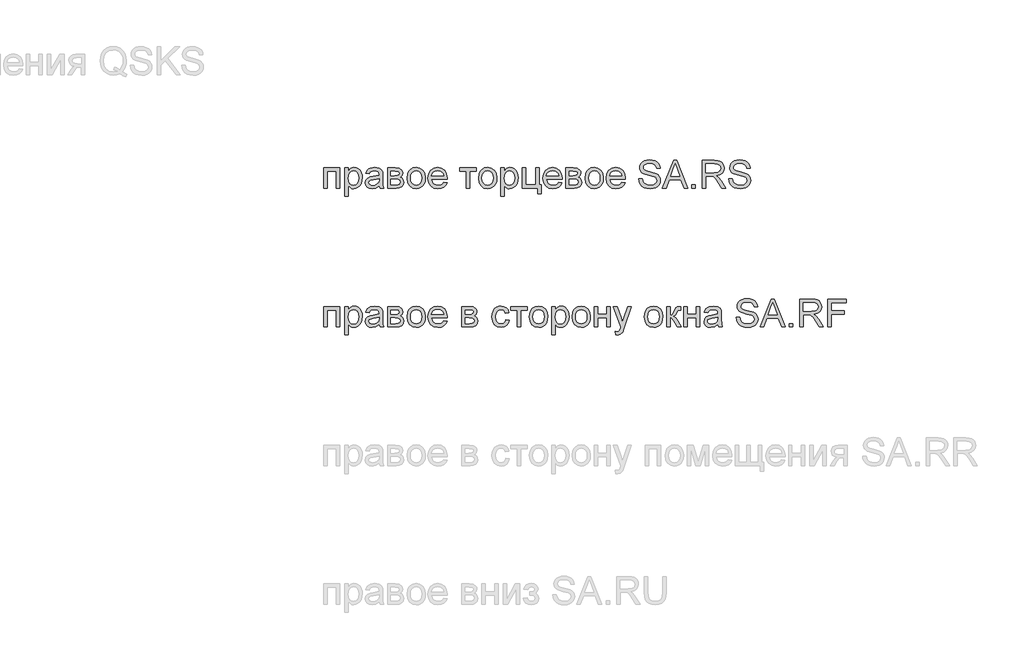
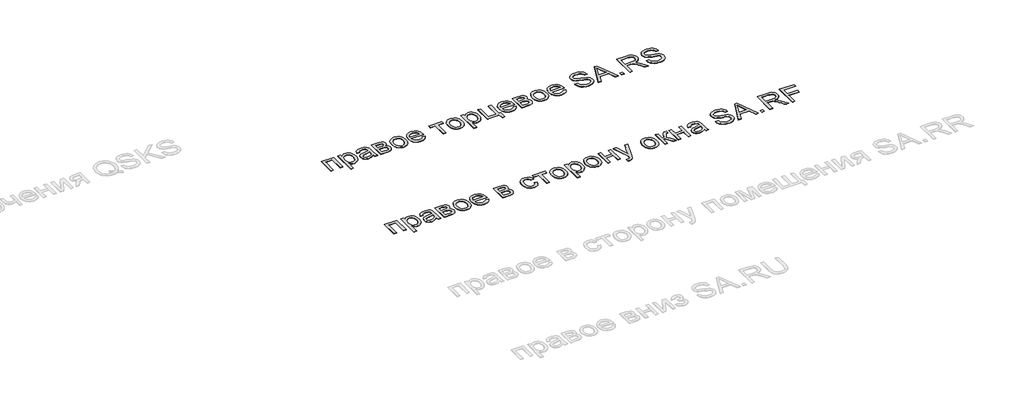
# One storey, part 9 of 17: 2 proxies.
"""IFC4 building model written with IfcOpenShell, lengths in millimetres."""

from ifc_helpers import new_model, si_unit, origin, origin_with_axes, place, context, project, spatial, polyline, outline, extrude, element, save

model = new_model("IFC4")

# Units and contexts
model_context = context("Model", 3, world=origin())
ifc_project = project(units=[si_unit("LENGTHUNIT", "METRE", prefix="MILLI")], contexts=[model_context])

# Site, building, storey
site = spatial("IfcSite", under=ifc_project)
building = spatial("IfcBuilding", under=site)
storey = spatial("IfcBuildingStorey", under=building, Name="Уровень 1", Elevation=0.0)

# Proxies
placement = place(None, origin())
element("IfcBuildingElementProxy", 1, Name="Текст модели 1", ObjectType="Текст модели 1", at=placement, inside=storey, context=model_context, shape_type="SweptSolid", body=[
    extrude(outline(polyline([(24434.1363388, -9578.6972647), (24547.1496877, -9578.6972647), (24547.1496877, -9726.2424702), (24522.0356102, -9726.2424702), (24522.0356102, -9603.8113423), (24459.2504163, -9603.8113423), (24459.2504163, -9726.2424702), (24434.1363388, -9726.2424702), (24434.1363388, -9578.6972647)])), origin_with_axes(), (0.0, 0.0, 1.0), 2.0),
    extrude(outline(polyline([(24584.820804, -9782.7491447), (24584.820804, -9578.6972647), (24609.9348816, -9578.6972647), (24609.9348816, -9603.3208329), (24627.2989117, -9582.498712), (24637.9920151, -9577.2931818), (24650.7452576, -9575.558005), (24667.729143, -9577.9860262), (24682.5793129, -9585.2700897), (24694.6703678, -9596.9687371), (24703.3769083, -9612.6405101), (24708.6376209, -9631.1449745), (24710.3911917, -9651.341696), (24708.4107603, -9672.8198732), (24702.4694661, -9692.0294447), (24692.7573814, -9707.9955233), (24679.4645787, -9719.7432217), (24663.982878, -9726.9721029), (24647.7040997, -9729.3817299), (24636.1587365, -9727.7691805), (24625.8519092, -9722.9315323), (24609.9348816, -9706.6220972), (24609.9348816, -9782.7491447), (24584.820804, -9782.7491447)]), holes=[polyline([(24609.9348816, -9653.6470899), (24612.651077, -9676.161468), (24620.7996632, -9691.9068174), (24632.823273, -9701.1774436), (24647.1645395, -9704.2676524), (24661.7387978, -9701.067079), (24674.0689761, -9691.465359), (24682.4750796, -9675.1436611), (24685.2771142, -9651.7831544), (24682.5425247, -9629.3914037), (24674.3387562, -9613.4253251), (24662.3335404, -9603.8603932), (24648.1946091, -9600.6720826), (24634.0004954, -9604.0627283), (24621.5354271, -9614.2346654), (24612.835018, -9630.869063), (24609.9348816, -9653.6470899)])]), origin_with_axes(), (0.0, 0.0, 1.0), 2.0),
    extrude(outline(polyline([(24832.8223197, -9707.4069121), (24808.4685316, -9724.4275857), (24781.564095, -9729.3817299), (24760.5764272, -9726.4018858), (24745.0947266, -9717.4623533), (24735.5481888, -9703.8875077), (24732.3660096, -9687.0017241), (24737.173001, -9667.1360964), (24749.8036161, -9652.7151221), (24767.3883755, -9644.4745655), (24789.1179387, -9640.6976436), (24832.6751669, -9632.0646795), (24832.8223197, -9626.4728732), (24831.0932743, -9615.264735), (24825.9061382, -9607.9316206), (24814.3055926, -9602.4869671), (24798.1433103, -9600.6720826), (24783.1827758, -9601.8799618), (24772.7349272, -9605.5035994), (24765.6102792, -9612.2051831), (24760.6193468, -9622.6469004), (24735.5052692, -9619.5076407), (24746.3700508, -9594.9821744), (24755.6284144, -9586.7293549), (24768.2467668, -9580.6102511), (24801.3806719, -9575.558005), (24831.8167756, -9580.0216399), (24849.0091275, -9591.229778), (24856.7101239, -9608.2749771), (24857.9363972, -9630.249795), (24857.9363972, -9661.4952391), (24859.2117215, -9705.1260437), (24864.2149166, -9726.2424702), (24839.1008391, -9726.2424702), (24832.8223197, -9707.4069121)]), holes=[polyline([(24832.8223197, -9657.178757), (24792.3062493, -9664.8797535), (24770.6993135, -9668.9509809), (24760.9136524, -9675.5728568), (24757.4800871, -9685.2358905), (24759.3501539, -9692.703895), (24764.9603543, -9698.8229989), (24774.188061, -9702.906489), (24786.9106467, -9704.2676524), (24800.3996532, -9702.7654676), (24812.3190298, -9698.2589131), (24828.7020414, -9683.7153116), (24832.6751669, -9664.2911423), (24832.8223197, -9657.178757)])]), origin_with_axes(), (0.0, 0.0, 1.0), 2.0),
    extrude(outline(polyline([(24892.4682539, -9578.6972647), (24947.7977059, -9578.6972647), (24978.1357078, -9582.0572536), (24995.2054324, -9594.3690377), (25000.5581154, -9604.2098811), (25002.3423431, -9615.8288208), (24998.025861, -9633.2664273), (24985.0273638, -9645.7008388), (24994.3225156, -9650.9186317), (25001.9008847, -9659.3124726), (25006.940868, -9670.2201737), (25008.6208625, -9682.9795476), (25004.3656941, -9702.1216741), (24994.2489392, -9715.5984179), (24978.2338097, -9723.5814571), (24956.2835173, -9726.2424702), (24892.4682539, -9726.2424702), (24892.4682539, -9578.6972647)]), holes=[polyline([(24917.5823314, -9701.1283927), (24948.3863171, -9701.1283927), (24965.1739988, -9699.9940899), (24975.7076866, -9696.5911814), (24981.3608066, -9690.4046326), (24983.5067849, -9680.9194084), (24979.2148283, -9668.8283535), (24968.0312157, -9661.7895447), (24945.9337705, -9660.3180167), (24917.5823314, -9660.3180167), (24917.5823314, -9701.1283927)]), polyline([(24917.5823314, -9635.2039392), (24942.4021033, -9635.2039392), (24962.8808677, -9633.9286149), (24972.8382071, -9628.8273179), (24977.2282655, -9619.6057426), (24975.3030164, -9612.1132126), (24969.5272691, -9607.2939585), (24943.1869183, -9603.8113423), (24917.5823314, -9603.8113423), (24917.5823314, -9635.2039392)])]), origin_with_axes(), (0.0, 0.0, 1.0), 2.0),
    extrude(outline(polyline([(25033.73494, -9652.4698675), (25039.1673308, -9616.8956785), (25045.9578193, -9603.0725126), (25055.4645032, -9591.8919656), (25075.5999111, -9579.6414952), (25099.7084445, -9575.558005), (25126.0917149, -9580.5305433), (25147.1652219, -9595.4481582), (25160.9791908, -9619.1336274), (25165.5838471, -9650.4097283), (25163.5482334, -9675.7813232), (25157.4413923, -9695.095128), (25147.4411333, -9709.5590218), (25133.7252663, -9720.3808838), (25117.4342253, -9727.1315184), (25099.7084445, -9729.3817299), (25073.006343, -9724.4275857), (25051.9573615, -9709.5651531), (25038.2905454, -9685.3830433), (25033.73494, -9652.4698675)]), holes=[polyline([(25058.8490175, -9652.4208165), (25061.7552853, -9675.1497925), (25070.4740886, -9691.3427316), (25083.5952131, -9701.0364222), (25099.7084445, -9704.2676524), (25115.7480995, -9701.0180281), (25128.8446985, -9691.2691552), (25137.5635018, -9674.8616183), (25140.4697695, -9651.6360016), (25137.5451077, -9629.5692133), (25128.7711221, -9613.5970033), (25115.656129, -9603.9033128), (25099.7084445, -9600.6720826), (25083.5952131, -9603.89105), (25070.4740886, -9613.5479524), (25061.7552853, -9629.7041033), (25058.8490175, -9652.4208165)])]), origin_with_axes(), (0.0, 0.0, 1.0), 2.0),
    extrude(outline(polyline([(25297.1384486, -9682.2928346), (25321.7620168, -9685.4320942), (25312.8899293, -9703.9856095), (25298.7326039, -9717.8547608), (25279.6088715, -9726.4999876), (25255.8375632, -9729.3817299), (25226.3702154, -9724.4091916), (25203.6964218, -9709.4915767), (25189.2386594, -9685.5976411), (25184.4194052, -9653.6961408), (25189.2877103, -9620.7216513), (25203.8926255, -9596.0612949), (25226.2598508, -9580.6838275), (25254.4150862, -9575.558005), (25281.6935361, -9580.6715648), (25303.4905443, -9596.012244), (25317.7827598, -9620.6235494), (25322.5468317, -9653.548988), (25322.3996789, -9660.3180167), (25209.5334828, -9660.3180167), (25213.8806217, -9679.1167867), (25223.9789824, -9692.936887), (25238.5532408, -9701.434961), (25256.3280726, -9704.2676524), (25280.9516408, -9699.0192026), (25290.0996397, -9692.2133857), (25297.1384486, -9682.2928346)]), holes=[polyline([(25209.5334828, -9635.2039392), (25297.4327541, -9635.2039392), (25294.0359771, -9621.9356619), (25287.3773129, -9612.4443064), (25272.7356095, -9603.6151385), (25254.3169843, -9600.6720826), (25237.3882812, -9603.020396), (25223.3903713, -9610.0653362), (25213.6598925, -9621.0466137), (25209.5334828, -9635.2039392)])]), origin_with_axes(), (0.0, 0.0, 1.0), 2.0),
    extrude(outline(polyline([(25413.5853628, -9578.6972647), (25532.8772311, -9578.6972647), (25532.8772311, -9603.8113423), (25485.7883357, -9603.8113423), (25485.7883357, -9726.2424702), (25460.6742581, -9726.2424702), (25460.6742581, -9603.8113423), (25413.5853628, -9603.8113423), (25413.5853628, -9578.6972647)])), origin_with_axes(), (0.0, 0.0, 1.0), 2.0),
    extrude(outline(polyline([(25548.5735295, -9652.4698675), (25554.0059203, -9616.8956785), (25560.7964088, -9603.0725126), (25570.3030927, -9591.8919656), (25590.4385006, -9579.6414952), (25614.547034, -9575.558005), (25640.9303044, -9580.5305433), (25662.0038114, -9595.4481582), (25675.8177803, -9619.1336274), (25680.4224366, -9650.4097283), (25678.3868229, -9675.7813232), (25672.2799818, -9695.095128), (25662.2797229, -9709.5590218), (25648.5638558, -9720.3808838), (25632.2728148, -9727.1315184), (25614.547034, -9729.3817299), (25587.8449325, -9724.4275857), (25566.795951, -9709.5651531), (25553.1291349, -9685.3830433), (25548.5735295, -9652.4698675)]), holes=[polyline([(25573.6876071, -9652.4208165), (25576.5938748, -9675.1497925), (25585.3126781, -9691.3427316), (25598.4338026, -9701.0364222), (25614.547034, -9704.2676524), (25630.586689, -9701.0180281), (25643.683288, -9691.2691552), (25652.4020913, -9674.8616183), (25655.3083591, -9651.6360016), (25652.3836972, -9629.5692133), (25643.6097116, -9613.5970033), (25630.4947185, -9603.9033128), (25614.547034, -9600.6720826), (25598.4338026, -9603.89105), (25585.3126781, -9613.5479524), (25576.5938748, -9629.7041033), (25573.6876071, -9652.4208165)])]), origin_with_axes(), (0.0, 0.0, 1.0), 2.0),
    extrude(outline(polyline([(25708.6757738, -9782.7491447), (25708.6757738, -9578.6972647), (25733.7898514, -9578.6972647), (25733.7898514, -9603.3208329), (25751.1538815, -9582.498712), (25761.8469849, -9577.2931818), (25774.6002274, -9575.558005), (25791.5841128, -9577.9860262), (25806.4342827, -9585.2700897), (25818.5253376, -9596.9687371), (25827.2318781, -9612.6405101), (25832.4925907, -9631.1449745), (25834.2461615, -9651.341696), (25832.2657301, -9672.8198732), (25826.3244359, -9692.0294447), (25816.6123512, -9707.9955233), (25803.3195484, -9719.7432217), (25787.8378478, -9726.9721029), (25771.5590695, -9729.3817299), (25760.0137063, -9727.7691805), (25749.706879, -9722.9315323), (25733.7898514, -9706.6220972), (25733.7898514, -9782.7491447), (25708.6757738, -9782.7491447)]), holes=[polyline([(25733.7898514, -9653.6470899), (25736.5060468, -9676.161468), (25744.654633, -9691.9068174), (25756.6782428, -9701.1774436), (25771.0195093, -9704.2676524), (25785.5937676, -9701.067079), (25797.9239459, -9691.465359), (25806.3300494, -9675.1436611), (25809.132084, -9651.7831544), (25806.3974945, -9629.3914037), (25798.193726, -9613.4253251), (25786.1885102, -9603.8603932), (25772.0495789, -9600.6720826), (25757.8554652, -9604.0627283), (25745.3903969, -9614.2346654), (25736.6899878, -9630.869063), (25733.7898514, -9653.6470899)])]), origin_with_axes(), (0.0, 0.0, 1.0), 2.0),
    extrude(outline(polyline([(25862.4994987, -9578.6972647), (25887.6135763, -9578.6972647), (25887.6135763, -9701.1283927), (25959.8165492, -9701.1283927), (25959.8165492, -9578.6972647), (25984.9306267, -9578.6972647), (25984.9306267, -9701.1283927), (26000.6269252, -9701.1283927), (26000.6269252, -9767.0528462), (25975.5128477, -9767.0528462), (25975.5128477, -9726.2424702), (25862.4994987, -9726.2424702), (25862.4994987, -9578.6972647)])), origin_with_axes(), (0.0, 0.0, 1.0), 2.0),
    extrude(outline(polyline([(26125.9030073, -9682.2928346), (26150.5265755, -9685.4320942), (26141.654488, -9703.9856095), (26127.4971626, -9717.8547608), (26108.3734302, -9726.4999876), (26084.602122, -9729.3817299), (26055.1347741, -9724.4091916), (26032.4609805, -9709.4915767), (26018.0032181, -9685.5976411), (26013.183964, -9653.6961408), (26018.052269, -9620.7216513), (26032.6571842, -9596.0612949), (26055.0244095, -9580.6838275), (26083.1796449, -9575.558005), (26110.4580949, -9580.6715648), (26132.2551031, -9596.012244), (26146.5473186, -9620.6235494), (26151.3113904, -9653.548988), (26151.1642376, -9660.3180167), (26038.2980415, -9660.3180167), (26042.6451804, -9679.1167867), (26052.7435412, -9692.936887), (26067.3177996, -9701.434961), (26085.0926313, -9704.2676524), (26109.7161995, -9699.0192026), (26118.8641984, -9692.2133857), (26125.9030073, -9682.2928346)]), holes=[polyline([(26038.2980415, -9635.2039392), (26126.1973129, -9635.2039392), (26122.8005358, -9621.9356619), (26116.1418717, -9612.4443064), (26101.5001683, -9603.6151385), (26083.081543, -9600.6720826), (26066.1528399, -9603.020396), (26052.15493, -9610.0653362), (26042.4244512, -9621.0466137), (26038.2980415, -9635.2039392)])]), origin_with_axes(), (0.0, 0.0, 1.0), 2.0),
    extrude(outline(polyline([(26176.425468, -9578.6972647), (26231.75492, -9578.6972647), (26262.0929219, -9582.0572536), (26279.1626465, -9594.3690377), (26284.5153295, -9604.2098811), (26286.2995572, -9615.8288208), (26281.9830751, -9633.2664273), (26268.9845779, -9645.7008388), (26278.2797297, -9650.9186317), (26285.8580988, -9659.3124726), (26290.8980821, -9670.2201737), (26292.5780766, -9682.9795476), (26288.3229082, -9702.1216741), (26278.2061533, -9715.5984179), (26262.1910238, -9723.5814571), (26240.2407314, -9726.2424702), (26176.425468, -9726.2424702), (26176.425468, -9578.6972647)]), holes=[polyline([(26201.5395455, -9635.2039392), (26226.3593174, -9635.2039392), (26246.8380818, -9633.9286149), (26256.7954212, -9628.8273179), (26261.1854796, -9619.6057426), (26259.2602305, -9612.1132126), (26253.4844832, -9607.2939585), (26227.1441324, -9603.8113423), (26201.5395455, -9603.8113423), (26201.5395455, -9635.2039392)]), polyline([(26201.5395455, -9701.1283927), (26232.3435312, -9701.1283927), (26249.1312129, -9699.9940899), (26259.6649007, -9696.5911814), (26265.3180207, -9690.4046326), (26267.463999, -9680.9194084), (26263.1720424, -9668.8283535), (26251.9884298, -9661.7895447), (26229.8909846, -9660.3180167), (26201.5395455, -9660.3180167), (26201.5395455, -9701.1283927)])]), origin_with_axes(), (0.0, 0.0, 1.0), 2.0),
    extrude(outline(polyline([(26317.6921541, -9652.4698675), (26323.1245449, -9616.8956785), (26329.9150334, -9603.0725126), (26339.4217173, -9591.8919656), (26359.5571252, -9579.6414952), (26383.6656586, -9575.558005), (26410.048929, -9580.5305433), (26431.122436, -9595.4481582), (26444.9364049, -9619.1336274), (26449.5410612, -9650.4097283), (26447.5054475, -9675.7813232), (26441.3986064, -9695.095128), (26431.3983474, -9709.5590218), (26417.6824804, -9720.3808838), (26401.3914394, -9727.1315184), (26383.6656586, -9729.3817299), (26356.9635571, -9724.4275857), (26335.9145756, -9709.5651531), (26322.2477595, -9685.3830433), (26317.6921541, -9652.4698675)]), holes=[polyline([(26342.8062316, -9652.4208165), (26345.7124994, -9675.1497925), (26354.4313027, -9691.3427316), (26367.5524272, -9701.0364222), (26383.6656586, -9704.2676524), (26399.7053136, -9701.0180281), (26412.8019126, -9691.2691552), (26421.5207159, -9674.8616183), (26424.4269836, -9651.6360016), (26421.5023218, -9629.5692133), (26412.7283362, -9613.5970033), (26399.6133431, -9603.9033128), (26383.6656586, -9600.6720826), (26367.5524272, -9603.89105), (26354.4313027, -9613.5479524), (26345.7124994, -9629.7041033), (26342.8062316, -9652.4208165)])]), origin_with_axes(), (0.0, 0.0, 1.0), 2.0),
    extrude(outline(polyline([(26581.0956627, -9682.2928346), (26605.7192309, -9685.4320942), (26596.8471434, -9703.9856095), (26582.689818, -9717.8547608), (26563.5660856, -9726.4999876), (26539.7947773, -9729.3817299), (26510.3274295, -9724.4091916), (26487.6536359, -9709.4915767), (26473.1958735, -9685.5976411), (26468.3766193, -9653.6961408), (26473.2449244, -9620.7216513), (26487.8498396, -9596.0612949), (26510.2170649, -9580.6838275), (26538.3723003, -9575.558005), (26565.6507502, -9580.6715648), (26587.4477584, -9596.012244), (26601.7399739, -9620.6235494), (26606.5040458, -9653.548988), (26606.356893, -9660.3180167), (26493.4906969, -9660.3180167), (26497.8378358, -9679.1167867), (26507.9361965, -9692.936887), (26522.5104549, -9701.434961), (26540.2852867, -9704.2676524), (26564.9088549, -9699.0192026), (26574.0568538, -9692.2133857), (26581.0956627, -9682.2928346)]), holes=[polyline([(26493.4906969, -9635.2039392), (26581.3899682, -9635.2039392), (26577.9931912, -9621.9356619), (26571.334527, -9612.4443064), (26556.6928236, -9603.6151385), (26538.2741984, -9600.6720826), (26521.3454953, -9603.020396), (26507.3475854, -9610.0653362), (26497.6171066, -9621.0466137), (26493.4906969, -9635.2039392)])]), origin_with_axes(), (0.0, 0.0, 1.0), 2.0),
    extrude(outline(polyline([(26703.8210962, -9657.178757), (26728.9351738, -9657.178757), (26737.0285777, -9682.31736), (26745.1587698, -9691.2078416), (26756.7961035, -9698.2098622), (26771.020874, -9702.7532049), (26786.9133762, -9704.2676524), (26813.1556252, -9699.6813902), (26830.1027225, -9687.0753005), (26835.6700033, -9670.2263051), (26831.500674, -9654.5545321), (26825.1485783, -9648.3557205), (26814.4309495, -9643.1501903), (26777.8634791, -9633.5607329), (26738.5001057, -9621.1753724), (26725.9982492, -9612.7263493), (26717.1384245, -9602.4869671), (26711.8593178, -9590.677955), (26710.0996156, -9577.5200423), (26712.2762508, -9562.8108939), (26718.8061562, -9549.0950268), (26729.5176536, -9537.4699558), (26744.2390648, -9529.0331954), (26761.9096633, -9523.9012415), (26781.4687227, -9522.1905903), (26802.6587256, -9523.9809493), (26821.1999782, -9529.3520264), (26836.4302928, -9538.193457), (26847.6874818, -9550.3948766), (26854.8121298, -9565.1959955), (26857.6448212, -9581.8365244), (26832.5307436, -9581.8365244), (26827.9199559, -9566.8514645), (26818.3059731, -9556.0357338), (26803.284125, -9549.4874343), (26782.4497413, -9547.3046678), (26761.1248484, -9549.4629088), (26746.4954077, -9555.9376319), (26738.0341218, -9565.4657756), (26735.2136932, -9576.7842783), (26737.2125187, -9586.4350493), (26743.2089952, -9594.1973594), (26757.3847147, -9601.1380664), (26784.2155749, -9608.2259262), (26828.6557199, -9620.8320159), (26842.9724609, -9629.9432266), (26852.9604571, -9641.188153), (26858.8281749, -9654.4441675), (26860.7840809, -9669.588643), (26858.5338693, -9685.0703436), (26851.7832347, -9699.6323393), (26840.8080885, -9712.1648526), (26825.8843422, -9721.5581062), (26807.9378322, -9727.425824), (26787.8943949, -9729.3817299), (26763.2892208, -9727.2725398), (26743.0373169, -9720.9449695), (26726.9056914, -9710.3744935), (26714.6613524, -9695.5365864), (26706.8009404, -9677.4613177), (26703.8210962, -9657.178757)])), origin_with_axes(), (0.0, 0.0, 1.0), 2.0),
    extrude(outline(polyline([(26875.0579023, -9726.2424702), (26955.2561772, -9525.3298499), (26976.6423839, -9525.3298499), (27056.8406588, -9726.2424702), (27030.3041042, -9726.2424702), (27007.2992168, -9663.4572764), (26924.5502933, -9663.4572764), (26901.5944569, -9726.2424702), (26875.0579023, -9726.2424702)]), holes=[polyline([(26933.7718687, -9638.3431989), (26998.1266924, -9638.3431989), (26980.0268982, -9588.9489096), (26965.9492805, -9550.4439275), (26953.4412927, -9584.6324276), (26933.7718687, -9638.3431989)])]), origin_with_axes(), (0.0, 0.0, 1.0), 2.0),
    extrude(outline(polyline([(27086.8107787, -9726.2424702), (27086.8107787, -9701.1283927), (27111.9248562, -9701.1283927), (27111.9248562, -9726.2424702), (27086.8107787, -9726.2424702)])), origin_with_axes(), (0.0, 0.0, 1.0), 2.0),
    extrude(outline(polyline([(27162.1530113, -9726.2424702), (27162.1530113, -9525.3298499), (27248.7279075, -9525.3298499), (27271.9964437, -9526.684882), (27288.9251468, -9530.749978), (27301.2982446, -9538.2547707), (27310.8999647, -9549.9288927), (27317.0619881, -9564.4050492), (27319.1159959, -9580.3159455), (27315.7130875, -9600.1079968), (27305.5043621, -9616.5155338), (27288.1832515, -9628.5452751), (27263.4431873, -9635.2039392), (27277.7170087, -9645.9460934), (27298.0731458, -9671.795935), (27331.5749328, -9726.2424702), (27302.3896279, -9726.2424702), (27276.2454807, -9684.5982284), (27257.3608717, -9657.0316042), (27244.0925944, -9644.0085816), (27232.1486922, -9639.2261157), (27217.5805652, -9638.3431989), (27187.2670888, -9638.3431989), (27187.2670888, -9726.2424702), (27162.1530113, -9726.2424702)]), holes=[polyline([(27187.2670888, -9613.2291213), (27243.4794577, -9613.2291213), (27272.1497279, -9609.6729287), (27281.5797697, -9605.0498783), (27288.4346375, -9598.2931123), (27294.0019184, -9581.2479132), (27291.3470366, -9568.9974428), (27283.3823914, -9559.1259426), (27269.6787871, -9552.6144313), (27249.807028, -9550.4439275), (27187.2670888, -9550.4439275), (27187.2670888, -9613.2291213)])]), origin_with_axes(), (0.0, 0.0, 1.0), 2.0),
    extrude(outline(polyline([(27353.6478525, -9657.178757), (27378.7619301, -9657.178757), (27386.855334, -9682.31736), (27394.985526, -9691.2078416), (27406.6228598, -9698.2098622), (27420.8476303, -9702.7532049), (27436.7401325, -9704.2676524), (27462.9823815, -9699.6813902), (27479.9294787, -9687.0753005), (27485.4967596, -9670.2263051), (27481.3274303, -9654.5545321), (27474.9753345, -9648.3557205), (27464.2577057, -9643.1501903), (27427.6902354, -9633.5607329), (27388.3268619, -9621.1753724), (27375.8250055, -9612.7263493), (27366.9651807, -9602.4869671), (27361.6860741, -9590.677955), (27359.9263719, -9577.5200423), (27362.103007, -9562.8108939), (27368.6329125, -9549.0950268), (27379.3444099, -9537.4699558), (27394.0658211, -9529.0331954), (27411.7364196, -9523.9012415), (27431.295479, -9522.1905903), (27452.4854819, -9523.9809493), (27471.0267345, -9529.3520264), (27486.2570491, -9538.193457), (27497.5142381, -9550.3948766), (27504.6388861, -9565.1959955), (27507.4715774, -9581.8365244), (27482.3574999, -9581.8365244), (27477.7467122, -9566.8514645), (27468.1327294, -9556.0357338), (27453.1108813, -9549.4874343), (27432.2764976, -9547.3046678), (27410.9516046, -9549.4629088), (27396.322164, -9555.9376319), (27387.8608781, -9565.4657756), (27385.0404494, -9576.7842783), (27387.039275, -9586.4350493), (27393.0357515, -9594.1973594), (27407.211471, -9601.1380664), (27434.0423312, -9608.2259262), (27478.4824762, -9620.8320159), (27492.7992172, -9629.9432266), (27502.7872134, -9641.188153), (27508.6549312, -9654.4441675), (27510.6108371, -9669.588643), (27508.3606256, -9685.0703436), (27501.609991, -9699.6323393), (27490.6348448, -9712.1648526), (27475.7110985, -9721.5581062), (27457.7645885, -9727.425824), (27437.7211512, -9729.3817299), (27413.115977, -9727.2725398), (27392.8640732, -9720.9449695), (27376.7324477, -9710.3744935), (27364.4881086, -9695.5365864), (27356.6276967, -9677.4613177), (27353.6478525, -9657.178757)])), origin_with_axes(), (0.0, 0.0, 1.0), 2.0),
])
element("IfcBuildingElementProxy", 2, Name="Текст модели 1", ObjectType="Текст модели 1", at=placement, inside=storey, context=model_context, shape_type="SweptSolid", body=[
    extrude(outline(polyline([(24434.1363388, -10578.6972647), (24547.1496877, -10578.6972647), (24547.1496877, -10726.2424702), (24522.0356102, -10726.2424702), (24522.0356102, -10603.8113423), (24459.2504163, -10603.8113423), (24459.2504163, -10726.2424702), (24434.1363388, -10726.2424702), (24434.1363388, -10578.6972647)])), origin_with_axes(), (0.0, 0.0, 1.0), 2.0),
    extrude(outline(polyline([(24584.820804, -10782.7491447), (24584.820804, -10578.6972647), (24609.9348816, -10578.6972647), (24609.9348816, -10603.3208329), (24627.2989117, -10582.498712), (24637.9920151, -10577.2931818), (24650.7452576, -10575.558005), (24667.729143, -10577.9860262), (24682.5793129, -10585.2700897), (24694.6703678, -10596.9687371), (24703.3769083, -10612.6405101), (24708.6376209, -10631.1449745), (24710.3911917, -10651.341696), (24708.4107603, -10672.8198732), (24702.4694661, -10692.0294447), (24692.7573814, -10707.9955233), (24679.4645787, -10719.7432217), (24663.982878, -10726.9721029), (24647.7040997, -10729.3817299), (24636.1587365, -10727.7691805), (24625.8519092, -10722.9315323), (24609.9348816, -10706.6220972), (24609.9348816, -10782.7491447), (24584.820804, -10782.7491447)]), holes=[polyline([(24609.9348816, -10653.6470899), (24612.651077, -10676.161468), (24620.7996632, -10691.9068174), (24632.823273, -10701.1774436), (24647.1645395, -10704.2676524), (24661.7387978, -10701.067079), (24674.0689761, -10691.465359), (24682.4750796, -10675.1436611), (24685.2771142, -10651.7831544), (24682.5425247, -10629.3914037), (24674.3387562, -10613.4253251), (24662.3335404, -10603.8603932), (24648.1946091, -10600.6720826), (24634.0004954, -10604.0627283), (24621.5354271, -10614.2346654), (24612.835018, -10630.869063), (24609.9348816, -10653.6470899)])]), origin_with_axes(), (0.0, 0.0, 1.0), 2.0),
    extrude(outline(polyline([(24832.8223197, -10707.4069121), (24808.4685316, -10724.4275857), (24781.564095, -10729.3817299), (24760.5764272, -10726.4018858), (24745.0947266, -10717.4623533), (24735.5481888, -10703.8875077), (24732.3660096, -10687.0017241), (24737.173001, -10667.1360964), (24749.8036161, -10652.7151221), (24767.3883755, -10644.4745655), (24789.1179387, -10640.6976436), (24832.6751669, -10632.0646795), (24832.8223197, -10626.4728732), (24831.0932743, -10615.264735), (24825.9061382, -10607.9316206), (24814.3055926, -10602.4869671), (24798.1433103, -10600.6720826), (24783.1827758, -10601.8799618), (24772.7349272, -10605.5035994), (24765.6102792, -10612.2051831), (24760.6193468, -10622.6469004), (24735.5052692, -10619.5076407), (24746.3700508, -10594.9821744), (24755.6284144, -10586.7293549), (24768.2467668, -10580.6102511), (24801.3806719, -10575.558005), (24831.8167756, -10580.0216399), (24849.0091275, -10591.229778), (24856.7101239, -10608.2749771), (24857.9363972, -10630.249795), (24857.9363972, -10661.4952391), (24859.2117215, -10705.1260437), (24864.2149166, -10726.2424702), (24839.1008391, -10726.2424702), (24832.8223197, -10707.4069121)]), holes=[polyline([(24832.8223197, -10657.178757), (24792.3062493, -10664.8797535), (24770.6993135, -10668.9509809), (24760.9136524, -10675.5728568), (24757.4800871, -10685.2358905), (24759.3501539, -10692.703895), (24764.9603543, -10698.8229989), (24774.188061, -10702.906489), (24786.9106467, -10704.2676524), (24800.3996532, -10702.7654676), (24812.3190298, -10698.2589131), (24828.7020414, -10683.7153116), (24832.6751669, -10664.2911423), (24832.8223197, -10657.178757)])]), origin_with_axes(), (0.0, 0.0, 1.0), 2.0),
    extrude(outline(polyline([(24892.4682539, -10578.6972647), (24947.7977059, -10578.6972647), (24978.1357078, -10582.0572536), (24995.2054324, -10594.3690377), (25000.5581154, -10604.2098811), (25002.3423431, -10615.8288208), (24998.025861, -10633.2664273), (24985.0273638, -10645.7008388), (24994.3225156, -10650.9186317), (25001.9008847, -10659.3124726), (25006.940868, -10670.2201737), (25008.6208625, -10682.9795476), (25004.3656941, -10702.1216741), (24994.2489392, -10715.5984179), (24978.2338097, -10723.5814571), (24956.2835173, -10726.2424702), (24892.4682539, -10726.2424702), (24892.4682539, -10578.6972647)]), holes=[polyline([(24917.5823314, -10701.1283927), (24948.3863171, -10701.1283927), (24965.1739988, -10699.9940899), (24975.7076866, -10696.5911814), (24981.3608066, -10690.4046326), (24983.5067849, -10680.9194084), (24979.2148283, -10668.8283535), (24968.0312157, -10661.7895447), (24945.9337705, -10660.3180167), (24917.5823314, -10660.3180167), (24917.5823314, -10701.1283927)]), polyline([(24917.5823314, -10635.2039392), (24942.4021033, -10635.2039392), (24962.8808677, -10633.9286149), (24972.8382071, -10628.8273179), (24977.2282655, -10619.6057426), (24975.3030164, -10612.1132126), (24969.5272691, -10607.2939585), (24943.1869183, -10603.8113423), (24917.5823314, -10603.8113423), (24917.5823314, -10635.2039392)])]), origin_with_axes(), (0.0, 0.0, 1.0), 2.0),
    extrude(outline(polyline([(25033.73494, -10652.4698675), (25039.1673308, -10616.8956785), (25045.9578193, -10603.0725126), (25055.4645032, -10591.8919656), (25075.5999111, -10579.6414952), (25099.7084445, -10575.558005), (25126.0917149, -10580.5305433), (25147.1652219, -10595.4481582), (25160.9791908, -10619.1336274), (25165.5838471, -10650.4097283), (25163.5482334, -10675.7813232), (25157.4413923, -10695.095128), (25147.4411333, -10709.5590218), (25133.7252663, -10720.3808838), (25117.4342253, -10727.1315184), (25099.7084445, -10729.3817299), (25073.006343, -10724.4275857), (25051.9573615, -10709.5651531), (25038.2905454, -10685.3830433), (25033.73494, -10652.4698675)]), holes=[polyline([(25058.8490175, -10652.4208165), (25061.7552853, -10675.1497925), (25070.4740886, -10691.3427316), (25083.5952131, -10701.0364222), (25099.7084445, -10704.2676524), (25115.7480995, -10701.0180281), (25128.8446985, -10691.2691552), (25137.5635018, -10674.8616183), (25140.4697695, -10651.6360016), (25137.5451077, -10629.5692133), (25128.7711221, -10613.5970033), (25115.656129, -10603.9033128), (25099.7084445, -10600.6720826), (25083.5952131, -10603.89105), (25070.4740886, -10613.5479524), (25061.7552853, -10629.7041033), (25058.8490175, -10652.4208165)])]), origin_with_axes(), (0.0, 0.0, 1.0), 2.0),
    extrude(outline(polyline([(25297.1384486, -10682.2928346), (25321.7620168, -10685.4320942), (25312.8899293, -10703.9856095), (25298.7326039, -10717.8547608), (25279.6088715, -10726.4999876), (25255.8375632, -10729.3817299), (25226.3702154, -10724.4091916), (25203.6964218, -10709.4915767), (25189.2386594, -10685.5976411), (25184.4194052, -10653.6961408), (25189.2877103, -10620.7216513), (25203.8926255, -10596.0612949), (25226.2598508, -10580.6838275), (25254.4150862, -10575.558005), (25281.6935361, -10580.6715648), (25303.4905443, -10596.012244), (25317.7827598, -10620.6235494), (25322.5468317, -10653.548988), (25322.3996789, -10660.3180167), (25209.5334828, -10660.3180167), (25213.8806217, -10679.1167867), (25223.9789824, -10692.936887), (25238.5532408, -10701.434961), (25256.3280726, -10704.2676524), (25280.9516408, -10699.0192026), (25290.0996397, -10692.2133857), (25297.1384486, -10682.2928346)]), holes=[polyline([(25209.5334828, -10635.2039392), (25297.4327541, -10635.2039392), (25294.0359771, -10621.9356619), (25287.3773129, -10612.4443064), (25272.7356095, -10603.6151385), (25254.3169843, -10600.6720826), (25237.3882812, -10603.020396), (25223.3903713, -10610.0653362), (25213.6598925, -10621.0466137), (25209.5334828, -10635.2039392)])]), origin_with_axes(), (0.0, 0.0, 1.0), 2.0),
    extrude(outline(polyline([(25426.1424015, -10578.6972647), (25481.4718536, -10578.6972647), (25511.8098555, -10582.0572536), (25528.87958, -10594.3690377), (25534.2322631, -10604.2098811), (25536.0164908, -10615.8288208), (25531.7000087, -10633.2664273), (25518.7015115, -10645.7008388), (25527.9966633, -10650.9186317), (25535.5750324, -10659.3124726), (25540.6150157, -10670.2201737), (25542.2950101, -10682.9795476), (25538.0398417, -10702.1216741), (25527.9230869, -10715.5984179), (25511.9079573, -10723.5814571), (25489.957665, -10726.2424702), (25426.1424015, -10726.2424702), (25426.1424015, -10578.6972647)]), holes=[polyline([(25451.2564791, -10635.2039392), (25476.076251, -10635.2039392), (25496.5550154, -10633.9286149), (25506.5123547, -10628.8273179), (25510.9024132, -10619.6057426), (25508.9771641, -10612.1132126), (25503.2014168, -10607.2939585), (25476.8610659, -10603.8113423), (25451.2564791, -10603.8113423), (25451.2564791, -10635.2039392)]), polyline([(25451.2564791, -10701.1283927), (25482.0604648, -10701.1283927), (25498.8481465, -10699.9940899), (25509.3818343, -10696.5911814), (25515.0349543, -10690.4046326), (25517.1809326, -10680.9194084), (25512.888976, -10668.8283535), (25501.7053633, -10661.7895447), (25479.6079182, -10660.3180167), (25451.2564791, -10660.3180167), (25451.2564791, -10701.1283927)])]), origin_with_axes(), (0.0, 0.0, 1.0), 2.0),
    extrude(outline(polyline([(25746.3468901, -10672.8750555), (25771.4609677, -10676.0143152), (25764.458947, -10698.3508836), (25751.3010343, -10715.2305359), (25733.2257656, -10725.8439314), (25711.471677, -10729.3817299), (25684.7573128, -10724.4459798), (25663.8677468, -10709.6387295), (25650.3848717, -10685.6099039), (25645.89058, -10653.0094277), (25647.8096977, -10630.6605965), (25653.5670509, -10611.2916095), (25663.2546102, -10595.6504933), (25676.9643458, -10584.4852748), (25693.3657515, -10577.7898225), (25711.1283205, -10575.558005), (25732.3489802, -10578.6236883), (25749.3144716, -10587.8207382), (25761.4852342, -10602.6586453), (25768.321708, -10622.6469004), (25743.2076304, -10625.7861601), (25738.6520251, -10614.829408), (25731.5580339, -10606.9751274), (25722.3180645, -10602.2478438), (25711.3245242, -10600.6720826), (25695.0947968, -10603.7745541), (25682.2127956, -10613.0819685), (25673.806692, -10629.0970981), (25671.0046575, -10652.3227147), (25673.7453784, -10675.861031), (25681.967541, -10691.9313428), (25694.6165502, -10701.183575), (25710.6378111, -10704.2676524), (25723.6424397, -10702.3424033), (25734.3048862, -10696.566656), (25742.0610649, -10686.7932576), (25746.3468901, -10672.8750555)])), origin_with_axes(), (0.0, 0.0, 1.0), 2.0),
    extrude(outline(polyline([(25780.8787467, -10578.6972647), (25900.170615, -10578.6972647), (25900.170615, -10603.8113423), (25853.0817197, -10603.8113423), (25853.0817197, -10726.2424702), (25827.9676421, -10726.2424702), (25827.9676421, -10603.8113423), (25780.8787467, -10603.8113423), (25780.8787467, -10578.6972647)])), origin_with_axes(), (0.0, 0.0, 1.0), 2.0),
    extrude(outline(polyline([(25915.8669135, -10652.4698675), (25921.2993043, -10616.8956785), (25928.0897928, -10603.0725126), (25937.5964767, -10591.8919656), (25957.7318846, -10579.6414952), (25981.840418, -10575.558005), (26008.2236884, -10580.5305433), (26029.2971954, -10595.4481582), (26043.1111643, -10619.1336274), (26047.7158206, -10650.4097283), (26045.6802069, -10675.7813232), (26039.5733658, -10695.095128), (26029.5731068, -10709.5590218), (26015.8572398, -10720.3808838), (25999.5661988, -10727.1315184), (25981.840418, -10729.3817299), (25955.1383165, -10724.4275857), (25934.089335, -10709.5651531), (25920.4225189, -10685.3830433), (25915.8669135, -10652.4698675)]), holes=[polyline([(25940.980991, -10652.4208165), (25943.8872588, -10675.1497925), (25952.6060621, -10691.3427316), (25965.7271866, -10701.0364222), (25981.840418, -10704.2676524), (25997.880073, -10701.0180281), (26010.976672, -10691.2691552), (26019.6954753, -10674.8616183), (26022.601743, -10651.6360016), (26019.6770812, -10629.5692133), (26010.9030956, -10613.5970033), (25997.7881025, -10603.9033128), (25981.840418, -10600.6720826), (25965.7271866, -10603.89105), (25952.6060621, -10613.5479524), (25943.8872588, -10629.7041033), (25940.980991, -10652.4208165)])]), origin_with_axes(), (0.0, 0.0, 1.0), 2.0),
    extrude(outline(polyline([(26075.9691578, -10782.7491447), (26075.9691578, -10578.6972647), (26101.0832353, -10578.6972647), (26101.0832353, -10603.3208329), (26118.4472655, -10582.498712), (26129.1403688, -10577.2931818), (26141.8936113, -10575.558005), (26158.8774968, -10577.9860262), (26173.7276667, -10585.2700897), (26185.8187216, -10596.9687371), (26194.5252621, -10612.6405101), (26199.7859747, -10631.1449745), (26201.5395455, -10651.341696), (26199.5591141, -10672.8198732), (26193.6178199, -10692.0294447), (26183.9057352, -10707.9955233), (26170.6129324, -10719.7432217), (26155.1312318, -10726.9721029), (26138.8524535, -10729.3817299), (26127.3070902, -10727.7691805), (26117.000263, -10722.9315323), (26101.0832353, -10706.6220972), (26101.0832353, -10782.7491447), (26075.9691578, -10782.7491447)]), holes=[polyline([(26101.0832353, -10653.6470899), (26103.7994307, -10676.161468), (26111.9480169, -10691.9068174), (26123.9716268, -10701.1774436), (26138.3128933, -10704.2676524), (26152.8871516, -10701.067079), (26165.2173298, -10691.465359), (26173.6234334, -10675.1436611), (26176.425468, -10651.7831544), (26173.6908785, -10629.3914037), (26165.48711, -10613.4253251), (26153.4818942, -10603.8603932), (26139.3429628, -10600.6720826), (26125.1488492, -10604.0627283), (26112.6837809, -10614.2346654), (26103.9833717, -10630.869063), (26101.0832353, -10653.6470899)])]), origin_with_axes(), (0.0, 0.0, 1.0), 2.0),
    extrude(outline(polyline([(26223.5143633, -10652.4698675), (26228.9467541, -10616.8956785), (26235.7372426, -10603.0725126), (26245.2439265, -10591.8919656), (26265.3793344, -10579.6414952), (26289.4878678, -10575.558005), (26315.8711382, -10580.5305433), (26336.9446452, -10595.4481582), (26350.7586141, -10619.1336274), (26355.3632704, -10650.4097283), (26353.3276567, -10675.7813232), (26347.2208156, -10695.095128), (26337.2205567, -10709.5590218), (26323.5046896, -10720.3808838), (26307.2136486, -10727.1315184), (26289.4878678, -10729.3817299), (26262.7857663, -10724.4275857), (26241.7367848, -10709.5651531), (26228.0699687, -10685.3830433), (26223.5143633, -10652.4698675)]), holes=[polyline([(26248.6284409, -10652.4208165), (26251.5347086, -10675.1497925), (26260.2535119, -10691.3427316), (26273.3746364, -10701.0364222), (26289.4878678, -10704.2676524), (26305.5275228, -10701.0180281), (26318.6241218, -10691.2691552), (26327.3429251, -10674.8616183), (26330.2491929, -10651.6360016), (26327.324531, -10629.5692133), (26318.5505454, -10613.5970033), (26305.4355523, -10603.9033128), (26289.4878678, -10600.6720826), (26273.3746364, -10603.89105), (26260.2535119, -10613.5479524), (26251.5347086, -10629.7041033), (26248.6284409, -10652.4208165)])]), origin_with_axes(), (0.0, 0.0, 1.0), 2.0),
    extrude(outline(polyline([(26383.6166076, -10578.6972647), (26408.7306852, -10578.6972647), (26408.7306852, -10635.2039392), (26474.6551387, -10635.2039392), (26474.6551387, -10578.6972647), (26499.7692163, -10578.6972647), (26499.7692163, -10726.2424702), (26474.6551387, -10726.2424702), (26474.6551387, -10660.3180167), (26408.7306852, -10660.3180167), (26408.7306852, -10726.2424702), (26383.6166076, -10726.2424702), (26383.6166076, -10578.6972647)])), origin_with_axes(), (0.0, 0.0, 1.0), 2.0),
    extrude(outline(polyline([(26537.4403326, -10782.7491447), (26534.3010729, -10758.5670349), (26547.0543154, -10760.7743269), (26558.973692, -10758.0029492), (26566.282281, -10750.2774273), (26573.1494116, -10731.7852256), (26575.1114489, -10725.70291), (26521.7440341, -10578.6972647), (26548.2315377, -10578.6972647), (26576.5339259, -10660.6123223), (26586.3931634, -10693.3783453), (26596.2524009, -10664.4382951), (26625.3396039, -10578.6972647), (26651.6309039, -10578.6972647), (26600.2745773, -10729.7741374), (26586.9327236, -10762.5401604), (26572.3645966, -10780.2475471), (26552.7932745, -10785.8884044), (26537.4403326, -10782.7491447)])), origin_with_axes(), (0.0, 0.0, 1.0), 2.0),
    extrude(outline(polyline([(26744.6314722, -10652.4698675), (26750.063863, -10616.8956785), (26756.8543515, -10603.0725126), (26766.3610354, -10591.8919656), (26786.4964433, -10579.6414952), (26810.6049767, -10575.558005), (26836.9882471, -10580.5305433), (26858.0617541, -10595.4481582), (26871.875723, -10619.1336274), (26876.4803793, -10650.4097283), (26874.4447656, -10675.7813232), (26868.3379245, -10695.095128), (26858.3376656, -10709.5590218), (26844.6217985, -10720.3808838), (26828.3307575, -10727.1315184), (26810.6049767, -10729.3817299), (26783.9028752, -10724.4275857), (26762.8538937, -10709.5651531), (26749.1870776, -10685.3830433), (26744.6314722, -10652.4698675)]), holes=[polyline([(26769.7455498, -10652.4208165), (26772.6518175, -10675.1497925), (26781.3706208, -10691.3427316), (26794.4917453, -10701.0364222), (26810.6049767, -10704.2676524), (26826.6446317, -10701.0180281), (26839.7412307, -10691.2691552), (26848.460034, -10674.8616183), (26851.3663018, -10651.6360016), (26848.4416399, -10629.5692133), (26839.6676543, -10613.5970033), (26826.5526612, -10603.9033128), (26810.6049767, -10600.6720826), (26794.4917453, -10603.89105), (26781.3706208, -10613.5479524), (26772.6518175, -10629.7041033), (26769.7455498, -10652.4208165)])]), origin_with_axes(), (0.0, 0.0, 1.0), 2.0),
    extrude(outline(polyline([(26904.7337165, -10578.6972647), (26929.8477941, -10578.6972647), (26929.8477941, -10641.4824586), (26946.672264, -10636.9697728), (26960.4555761, -10610.6784728), (26971.9089689, -10587.9924165), (26982.013461, -10580.6102511), (27000.3830353, -10578.6972647), (27005.1900267, -10578.6972647), (27005.1900267, -10603.9584951), (26998.420998, -10603.8113423), (26986.1582648, -10606.4600926), (26977.5253007, -10622.9902569), (26967.3962831, -10640.8693219), (26953.196038, -10649.6249134), (26969.0394893, -10659.3983117), (26984.588635, -10679.9874407), (27011.4685461, -10726.2424702), (26982.9209033, -10726.2424702), (26956.5805524, -10680.9684594), (26943.3368006, -10661.8140702), (26929.8477941, -10657.178757), (26929.8477941, -10726.2424702), (26904.7337165, -10726.2424702), (26904.7337165, -10578.6972647)])), origin_with_axes(), (0.0, 0.0, 1.0), 2.0),
    extrude(outline(polyline([(27027.1648445, -10578.6972647), (27052.2789221, -10578.6972647), (27052.2789221, -10635.2039392), (27118.2033756, -10635.2039392), (27118.2033756, -10578.6972647), (27143.3174531, -10578.6972647), (27143.3174531, -10726.2424702), (27118.2033756, -10726.2424702), (27118.2033756, -10660.3180167), (27052.2789221, -10660.3180167), (27052.2789221, -10726.2424702), (27027.1648445, -10726.2424702), (27027.1648445, -10578.6972647)])), origin_with_axes(), (0.0, 0.0, 1.0), 2.0),
    extrude(outline(polyline([(27275.1663602, -10707.4069121), (27250.8125721, -10724.4275857), (27223.9081356, -10729.3817299), (27202.9204677, -10726.4018858), (27187.4387671, -10717.4623533), (27177.8922293, -10703.8875077), (27174.7100501, -10687.0017241), (27179.5170415, -10667.1360964), (27192.1476566, -10652.7151221), (27209.732416, -10644.4745655), (27231.4619792, -10640.6976436), (27275.0192074, -10632.0646795), (27275.1663602, -10626.4728732), (27273.4373148, -10615.264735), (27268.2501787, -10607.9316206), (27256.6496331, -10602.4869671), (27240.4873508, -10600.6720826), (27225.5268163, -10601.8799618), (27215.0789677, -10605.5035994), (27207.9543197, -10612.2051831), (27202.9633873, -10622.6469004), (27177.8493098, -10619.5076407), (27188.7140914, -10594.9821744), (27197.9724549, -10586.7293549), (27210.5908073, -10580.6102511), (27243.7247124, -10575.558005), (27274.1608161, -10580.0216399), (27291.353168, -10591.229778), (27299.0541644, -10608.2749771), (27300.2804378, -10630.249795), (27300.2804378, -10661.4952391), (27301.555762, -10705.1260437), (27306.5589571, -10726.2424702), (27281.4448796, -10726.2424702), (27275.1663602, -10707.4069121)]), holes=[polyline([(27275.1663602, -10657.178757), (27234.6502898, -10664.8797535), (27213.043354, -10668.9509809), (27203.2576929, -10675.5728568), (27199.8241276, -10685.2358905), (27201.6941944, -10692.703895), (27207.3043948, -10698.8229989), (27216.5321016, -10702.906489), (27229.2546872, -10704.2676524), (27242.7436937, -10702.7654676), (27254.6630704, -10698.2589131), (27271.0460819, -10683.7153116), (27275.0192074, -10664.2911423), (27275.1663602, -10657.178757)])]), origin_with_axes(), (0.0, 0.0, 1.0), 2.0),
    extrude(outline(polyline([(27407.0152673, -10657.178757), (27432.1293448, -10657.178757), (27440.2227487, -10682.31736), (27448.3529408, -10691.2078416), (27459.9902746, -10698.2098622), (27474.2150451, -10702.7532049), (27490.1075473, -10704.2676524), (27516.3497963, -10699.6813902), (27533.2968935, -10687.0753005), (27538.8641744, -10670.2263051), (27534.6948451, -10654.5545321), (27528.3427493, -10648.3557205), (27517.6251205, -10643.1501903), (27481.0576502, -10633.5607329), (27441.6942767, -10621.1753724), (27429.1924202, -10612.7263493), (27420.3325955, -10602.4869671), (27415.0534889, -10590.677955), (27413.2937867, -10577.5200423), (27415.4704218, -10562.8108939), (27422.0003272, -10549.0950268), (27432.7118247, -10537.4699558), (27447.4332358, -10529.0331954), (27465.1038343, -10523.9012415), (27484.6628937, -10522.1905903), (27505.8528967, -10523.9809493), (27524.3941492, -10529.3520264), (27539.6244638, -10538.193457), (27550.8816529, -10550.3948766), (27558.0063008, -10565.1959955), (27560.8389922, -10581.8365244), (27535.7249147, -10581.8365244), (27531.114127, -10566.8514645), (27521.5001442, -10556.0357338), (27506.4782961, -10549.4874343), (27485.6439124, -10547.3046678), (27464.3190194, -10549.4629088), (27449.6895787, -10555.9376319), (27441.2282928, -10565.4657756), (27438.4078642, -10576.7842783), (27440.4066897, -10586.4350493), (27446.4031662, -10594.1973594), (27460.5788858, -10601.1380664), (27487.409746, -10608.2259262), (27531.849891, -10620.8320159), (27546.166632, -10629.9432266), (27556.1546281, -10641.188153), (27562.022346, -10654.4441675), (27563.9782519, -10669.588643), (27561.7280404, -10685.0703436), (27554.9774058, -10699.6323393), (27544.0022596, -10712.1648526), (27529.0785133, -10721.5581062), (27511.1320033, -10727.425824), (27491.0885659, -10729.3817299), (27466.4833918, -10727.2725398), (27446.231488, -10720.9449695), (27430.0998625, -10710.3744935), (27417.8555234, -10695.5365864), (27409.9951115, -10677.4613177), (27407.0152673, -10657.178757)])), origin_with_axes(), (0.0, 0.0, 1.0), 2.0),
    extrude(outline(polyline([(27578.2520733, -10726.2424702), (27658.4503483, -10525.3298499), (27679.8365549, -10525.3298499), (27760.0348299, -10726.2424702), (27733.4982753, -10726.2424702), (27710.4933878, -10663.4572764), (27627.7444644, -10663.4572764), (27604.7886279, -10726.2424702), (27578.2520733, -10726.2424702)]), holes=[polyline([(27636.9660397, -10638.3431989), (27701.3208634, -10638.3431989), (27683.2210693, -10588.9489096), (27669.1434516, -10550.4439275), (27656.6354638, -10584.6324276), (27636.9660397, -10638.3431989)])]), origin_with_axes(), (0.0, 0.0, 1.0), 2.0),
    extrude(outline(polyline([(27790.0049497, -10726.2424702), (27790.0049497, -10701.1283927), (27815.1190273, -10701.1283927), (27815.1190273, -10726.2424702), (27790.0049497, -10726.2424702)])), origin_with_axes(), (0.0, 0.0, 1.0), 2.0),
    extrude(outline(polyline([(27865.3471823, -10726.2424702), (27865.3471823, -10525.3298499), (27951.9220785, -10525.3298499), (27975.1906147, -10526.684882), (27992.1193179, -10530.749978), (28004.4924157, -10538.2547707), (28014.0941357, -10549.9288927), (28020.2561592, -10564.4050492), (28022.310167, -10580.3159455), (28018.9072585, -10600.1079968), (28008.6985331, -10616.5155338), (27991.3774225, -10628.5452751), (27966.6373584, -10635.2039392), (27980.9111798, -10645.9460934), (28001.2673168, -10671.795935), (28034.7691039, -10726.2424702), (28005.5837989, -10726.2424702), (27979.4396518, -10684.5982284), (27960.5550427, -10657.0316042), (27947.2867654, -10644.0085816), (27935.3428633, -10639.2261157), (27920.7747363, -10638.3431989), (27890.4612599, -10638.3431989), (27890.4612599, -10726.2424702), (27865.3471823, -10726.2424702)]), holes=[polyline([(27890.4612599, -10613.2291213), (27946.6736287, -10613.2291213), (27975.3438989, -10609.6729287), (27984.7739407, -10605.0498783), (27991.6288086, -10598.2931123), (27997.1960894, -10581.2479132), (27994.5412077, -10568.9974428), (27986.5765625, -10559.1259426), (27972.8729582, -10552.6144313), (27953.0011991, -10550.4439275), (27890.4612599, -10550.4439275), (27890.4612599, -10613.2291213)])]), origin_with_axes(), (0.0, 0.0, 1.0), 2.0),
    extrude(outline(polyline([(28066.2598026, -10726.2424702), (28066.2598026, -10525.3298499), (28201.2479694, -10525.3298499), (28201.2479694, -10550.4439275), (28091.3738802, -10550.4439275), (28091.3738802, -10610.0898616), (28185.5516709, -10610.0898616), (28185.5516709, -10635.2039392), (28091.3738802, -10635.2039392), (28091.3738802, -10726.2424702), (28066.2598026, -10726.2424702)])), origin_with_axes(), (0.0, 0.0, 1.0), 2.0),
])

save(model, "model.ifc")
